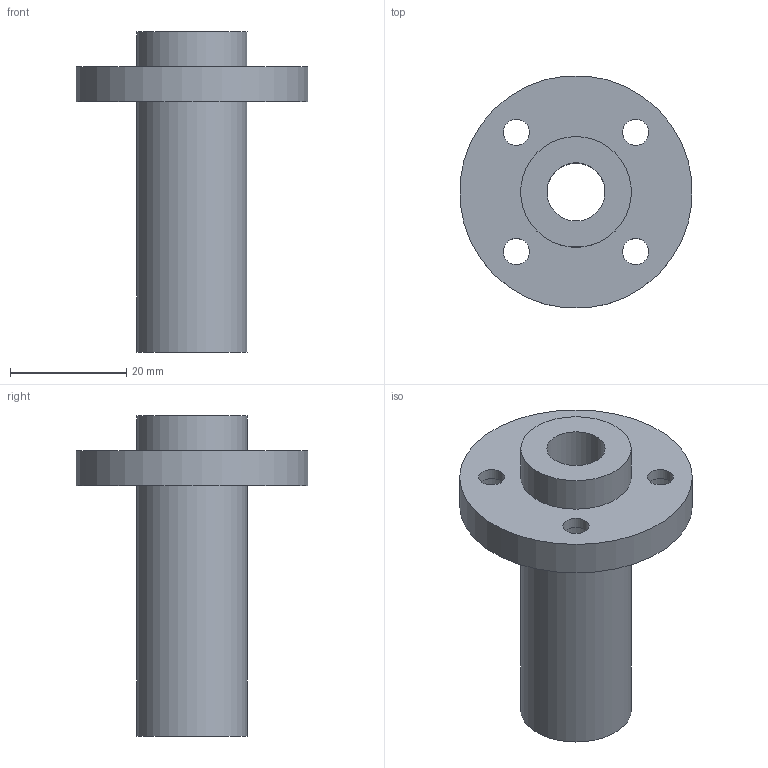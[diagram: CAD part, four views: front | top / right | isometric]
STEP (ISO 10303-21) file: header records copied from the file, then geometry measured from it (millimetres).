
FILE_DESCRIPTION(/* description */ (''),/* implementation_level */ '2;1');
FILE_NAME(/* name */ 'LMFP10LUU',/* time_stamp */ '2019-07-03T13:00:16+02:00',/* author */ ('VĂ©gh MĂˇtĂ©'),/* organization */ ('Bearing Kft'),/* preprocessor_version */ 'ST-DEVELOPER v16.7',/* originating_system */ 'DEX',/* authorisation */ $);
FILE_SCHEMA (('AUTOMOTIVE_DESIGN {1 0 10303 214 3 1 1}'));
Length unit declared in the file: millimetre
Products named in the file (1): LMFP10LUU
Bounding box: 39.85 x 39.85 x 55 mm (x, y, z)
Volume: 16266.6 mm3; surface area: 8143.1 mm2
Topology: 1 solids, 1 shells, 335 faces, 838 edges, 560 vertices
Faces by surface type: plane 258, bspline 62, cylinder 15
Full cylindrical faces by diameter (mm): 4.5 x4, 7.5 x4, 10 x1, 19 x2, 40 x1
Entity records: 12513 total; most frequent: CARTESIAN_POINT 4905, ORIENTED_EDGE 1638, DIRECTION 1273, EDGE_CURVE 819, LINE 665, VECTOR 665, VERTEX_POINT 556, EDGE_LOOP 415
